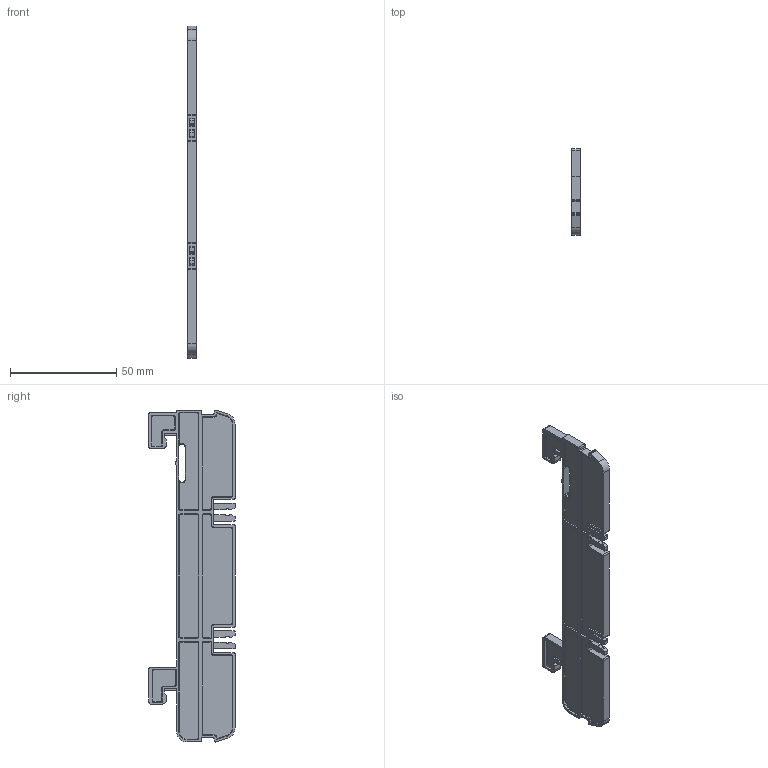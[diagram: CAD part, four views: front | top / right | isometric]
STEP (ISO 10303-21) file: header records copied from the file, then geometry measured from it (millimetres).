
FILE_DESCRIPTION (( 'STEP AP214' ), '1' );
FILE_NAME ('53317.STEP', '2021-03-22T01:17:52', ( '' ), ( '' ), 'SwSTEP 2.0', 'SolidWorks 2017', '' );
FILE_SCHEMA (( 'AUTOMOTIVE_DESIGN' ));
Length unit declared in the file: millimetre
Products named in the file (2): 53317
Bounding box: 4 x 40.5 x 156 mm (x, y, z)
Volume: 8990.6 mm3; surface area: 12825.4 mm2
Topology: 1 solids, 1 shells, 518 faces, 1299 edges, 795 vertices
Faces by surface type: cylinder 233, plane 192, torus 85, sphere 4, bspline 4
Entity records: 15499 total; most frequent: DIRECTION 2835, CARTESIAN_POINT 2761, ORIENTED_EDGE 2586, EDGE_CURVE 1293, AXIS2_PLACEMENT_3D 1045, VERTEX_POINT 795, LINE 745, VECTOR 745
